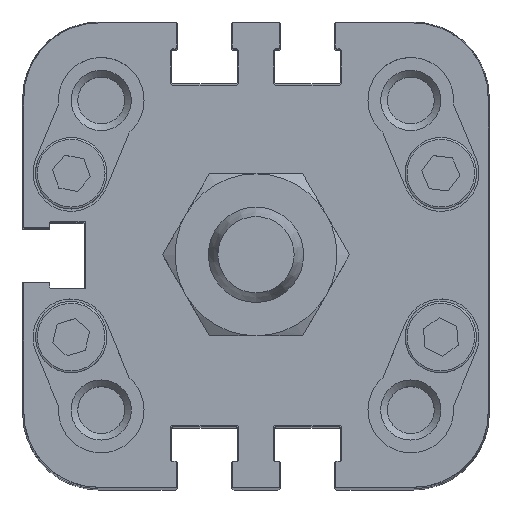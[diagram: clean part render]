
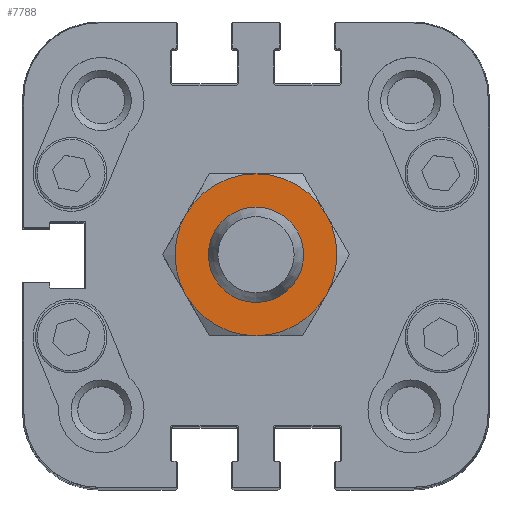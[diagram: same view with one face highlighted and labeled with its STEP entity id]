
A CAD part, top view. The second image highlights one B-rep face of the part: STEP entity #7788.
In plain terms, the highlighted planar face has unit normal (0, 0, 1) as drawn and (1, 0, 0) by its records, which use the part's own axes.
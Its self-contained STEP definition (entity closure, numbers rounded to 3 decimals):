
#3854=ORIENTED_EDGE('',*,*,#4956,.F.);
#3855=ORIENTED_EDGE('',*,*,#4948,.T.);
#3856=ORIENTED_EDGE('',*,*,#4945,.T.);
#3857=ORIENTED_EDGE('',*,*,#4944,.T.);
#3858=ORIENTED_EDGE('',*,*,#4946,.T.);
#3859=ORIENTED_EDGE('',*,*,#4947,.T.);
#3860=ORIENTED_EDGE('',*,*,#4949,.T.);
#4944=EDGE_CURVE('',#5690,#5700,#5995,.T.);
#4945=EDGE_CURVE('',#5686,#5690,#5996,.T.);
#4946=EDGE_CURVE('',#5700,#5697,#5997,.T.);
#4947=EDGE_CURVE('',#5697,#5693,#5998,.T.);
#4948=EDGE_CURVE('',#5680,#5686,#5999,.T.);
#4949=EDGE_CURVE('',#5693,#5680,#6000,.T.);
#4956=EDGE_CURVE('',#5701,#5701,#6007,.T.);
#5680=VERTEX_POINT('',#16183);
#5686=VERTEX_POINT('',#16204);
#5690=VERTEX_POINT('',#16222);
#5693=VERTEX_POINT('',#16241);
#5697=VERTEX_POINT('',#16259);
#5700=VERTEX_POINT('',#16276);
#5701=VERTEX_POINT('',#16306);
#5995=CIRCLE('',#10851,8.5);
#5996=CIRCLE('',#10853,8.5);
#5997=CIRCLE('',#10855,8.5);
#5998=CIRCLE('',#10857,8.5);
#5999=CIRCLE('',#10859,8.5);
#6000=CIRCLE('',#10861,8.5);
#6007=CIRCLE('',#10875,5.);
#6564=EDGE_LOOP('',(#3854));
#6565=EDGE_LOOP('',(#3855,#3856,#3857,#3858,#3859,#3860));
#7127=FACE_BOUND('',#6564,.T.);
#7128=FACE_BOUND('',#6565,.T.);
#7342=PLANE('',#10874);
#7788=ADVANCED_FACE('',(#7127,#7128),#7342,.T.);
#10851=AXIS2_PLACEMENT_3D('',#16281,#12856,#12857);
#10853=AXIS2_PLACEMENT_3D('',#16283,#12860,#12861);
#10855=AXIS2_PLACEMENT_3D('',#16285,#12864,#12865);
#10857=AXIS2_PLACEMENT_3D('',#16287,#12868,#12869);
#10859=AXIS2_PLACEMENT_3D('',#16289,#12872,#12873);
#10861=AXIS2_PLACEMENT_3D('',#16291,#12876,#12877);
#10874=AXIS2_PLACEMENT_3D('',#16304,#12902,#12903);
#10875=AXIS2_PLACEMENT_3D('',#16305,#12904,#12905);
#12856=DIRECTION('',(1.,0.,0.));
#12857=DIRECTION('',(0.,1.,0.));
#12860=DIRECTION('',(1.,0.,0.));
#12861=DIRECTION('',(0.,1.,0.));
#12864=DIRECTION('',(1.,0.,0.));
#12865=DIRECTION('',(0.,1.,0.));
#12868=DIRECTION('',(1.,0.,0.));
#12869=DIRECTION('',(0.,1.,0.));
#12872=DIRECTION('',(1.,0.,0.));
#12873=DIRECTION('',(0.,1.,0.));
#12876=DIRECTION('',(1.,0.,0.));
#12877=DIRECTION('',(0.,1.,0.));
#12902=DIRECTION('',(1.,0.,0.));
#12903=DIRECTION('',(0.,0.,-1.));
#12904=DIRECTION('',(1.,0.,0.));
#12905=DIRECTION('',(0.,0.,1.));
#16183=CARTESIAN_POINT('',(6.,-7.361,-4.25));
#16204=CARTESIAN_POINT('',(6.,0.,-8.5));
#16222=CARTESIAN_POINT('',(6.,7.361,-4.25));
#16241=CARTESIAN_POINT('',(6.,-7.361,4.25));
#16259=CARTESIAN_POINT('',(6.,0.,8.5));
#16276=CARTESIAN_POINT('',(6.,7.361,4.25));
#16281=CARTESIAN_POINT('',(6.,0.,0.));
#16283=CARTESIAN_POINT('',(6.,0.,0.));
#16285=CARTESIAN_POINT('',(6.,0.,0.));
#16287=CARTESIAN_POINT('',(6.,0.,0.));
#16289=CARTESIAN_POINT('',(6.,0.,0.));
#16291=CARTESIAN_POINT('',(6.,0.,0.));
#16304=CARTESIAN_POINT('',(6.,0.,0.));
#16305=CARTESIAN_POINT('',(6.,0.,0.));
#16306=CARTESIAN_POINT('',(6.,0.,5.));
